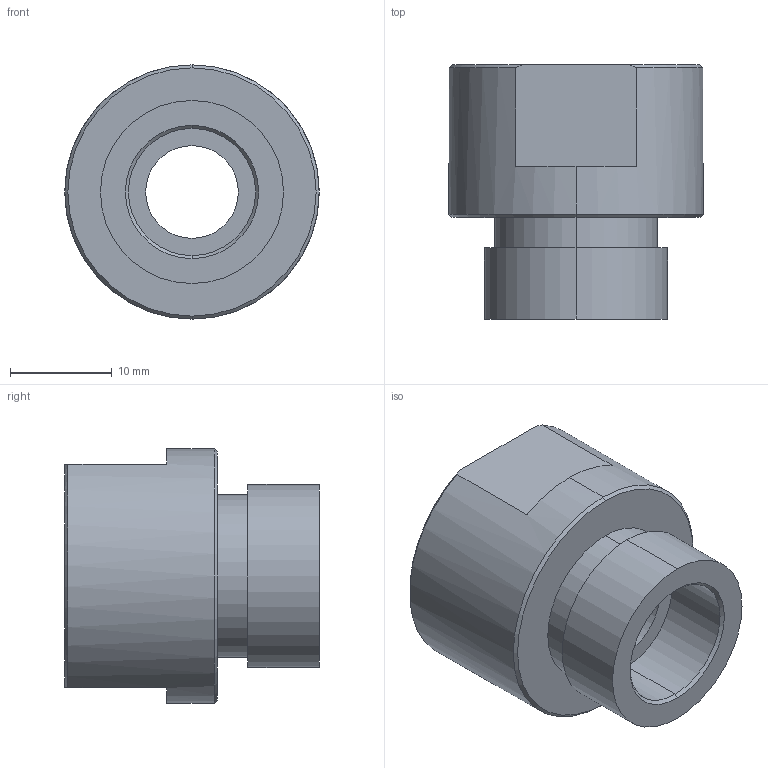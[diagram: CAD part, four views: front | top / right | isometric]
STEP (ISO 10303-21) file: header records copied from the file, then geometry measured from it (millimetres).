
FILE_DESCRIPTION (( 'STEP AP203' ), '1' );
FILE_NAME ('125MO-9.1.STEP', '2022-04-13T07:07:50', ( '' ), ( '' ), 'SwSTEP 2.0', 'SolidWorks 2015', '' );
FILE_SCHEMA (( 'CONFIG_CONTROL_DESIGN' ));
Length unit declared in the file: millimetre
Products named in the file (2): 125MO-9.1
Bounding box: 25 x 25 x 25 mm (x, y, z)
Volume: 7469.6 mm3; surface area: 3432.2 mm2
Topology: 1 solids, 1 shells, 25 faces, 56 edges, 36 vertices
Faces by surface type: cylinder 10, plane 9, cone 6
Entity records: 871 total; most frequent: DIRECTION 136, CARTESIAN_POINT 131, ORIENTED_EDGE 112, AXIS2_PLACEMENT_3D 57, EDGE_CURVE 56, VERTEX_POINT 36, CIRCLE 30, EDGE_LOOP 30
